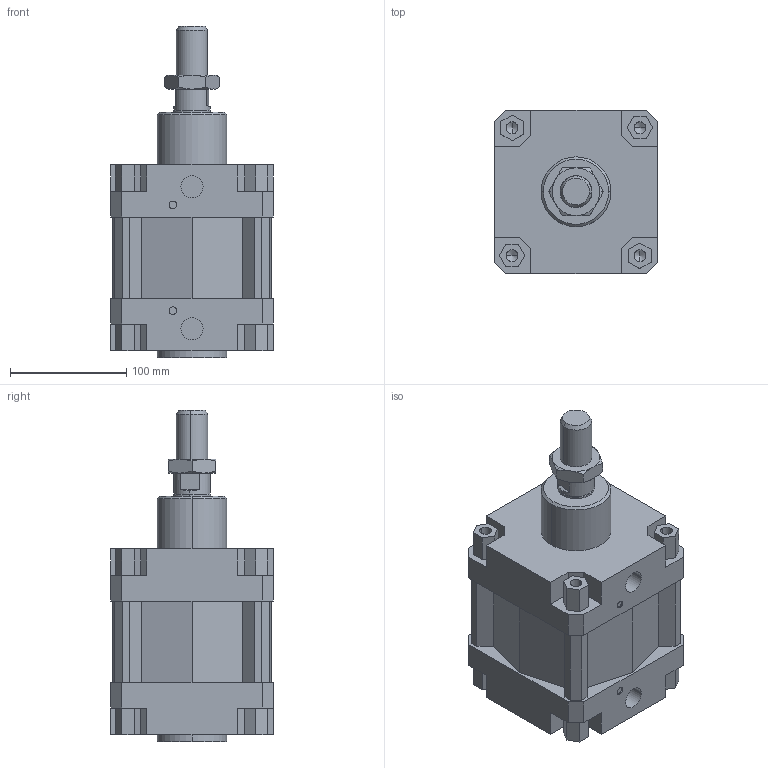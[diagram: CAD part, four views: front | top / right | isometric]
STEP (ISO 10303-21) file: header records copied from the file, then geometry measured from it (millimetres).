
FILE_DESCRIPTION((''),'2;1');
FILE_NAME('I:\DOC-EDP\Lib-3d\1319\CILINDRI\Ø125\1319_125_0000_01.stp','2003-04-08T12:18:17',('maffial1'),(''),'Autodesk Inventor (R) 6.0','Autodesk Inventor (R) 6.0','');
FILE_SCHEMA(('AUTOMOTIVE_DESIGN { 1 0 10303 214 1 1 1 1 }'));
Length unit declared in the file: millimetre
Products named in the file (4): 1319_125_0000_01; CIM02_125_0; CIM01_125_0; 1320_125_18F
Assembly tree (3 placements, depth 2):
  1319_125_0000_01
    CIM02_125_0
    CIM01_125_0
    1320_125_18F
Bounding box: 140 x 140 x 285 mm (x, y, z)
Volume: 2932926.4 mm3; surface area: 184762.8 mm2
Topology: 3 solids, 3 shells, 242 faces, 610 edges, 384 vertices
Faces by surface type: plane 118, bspline 68, cone 34, cylinder 22
Entity records: 7496 total; most frequent: CARTESIAN_POINT 1871, ORIENTED_EDGE 1188, DIRECTION 1044, EDGE_CURVE 594, VECTOR 458, LINE 458, VERTEX_POINT 384, AXIS2_PLACEMENT_3D 293
